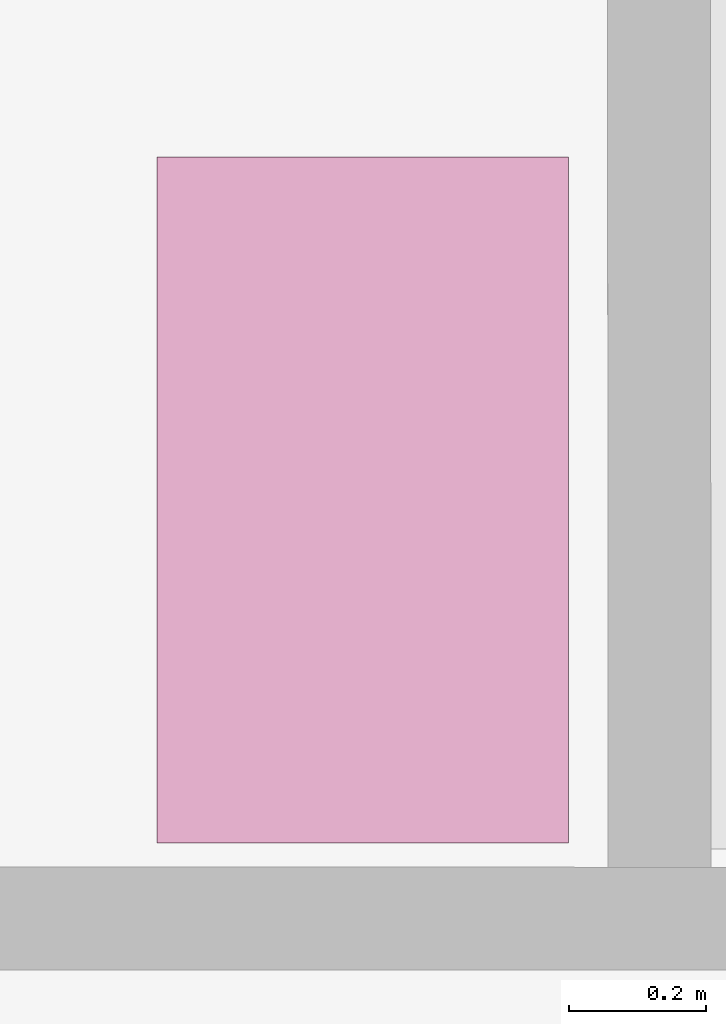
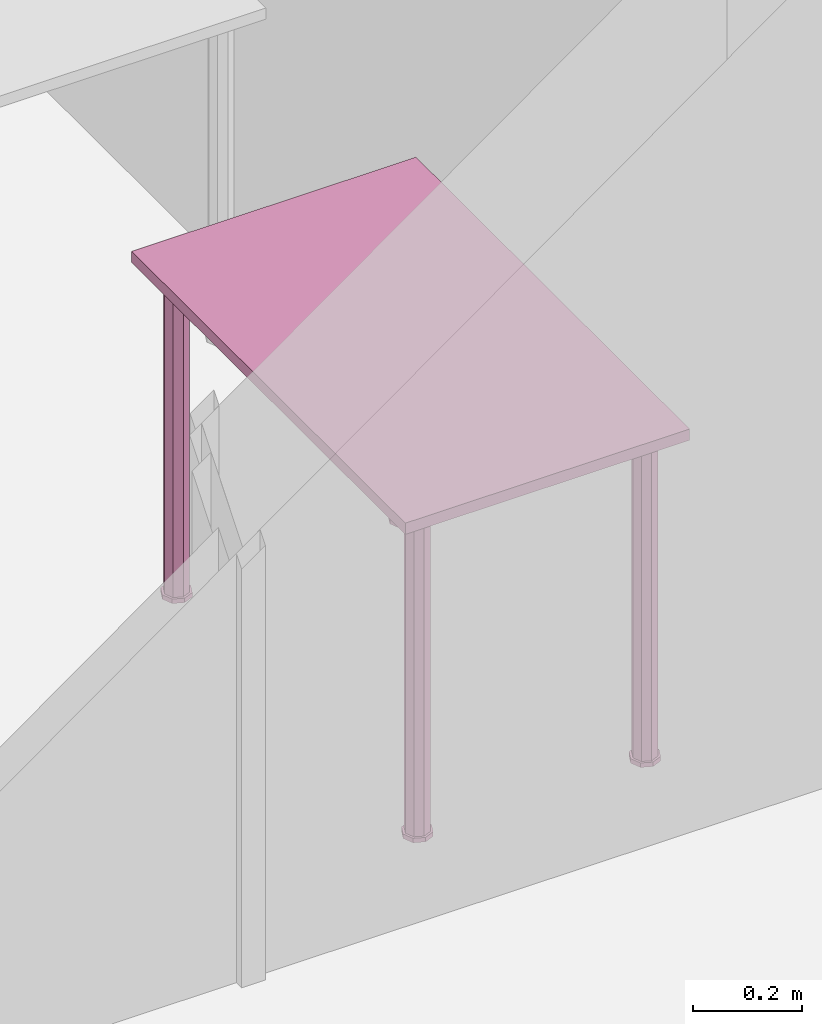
# One storey, part 185 of 194: 1 furnishing.
"""IFC2X3 building model written with IfcOpenShell, lengths in millimetres."""

import ifcopenshell
import ifcopenshell.guid

model = None  # the IFC model being written
_history = None  # IfcOwnerHistory: only IFC2X3 demands one
_inside = {}  # id of a spatial element -> (the spatial element, [elements in it])
_under = {}  # id of a project, library or spatial element -> (it, [spatial elements below it])
_declared = {}  # id of a project -> (the project, [libraries it declares])
_typed = {}  # id of a type object -> (the type object, [elements of that type])
_made_of = {}  # id of a material, layer set ... -> (it, [elements and type objects made of it])


def new_model(schema):
    """Start an empty IFC model of exactly this schema.

    Asked for "IFC4X3", IfcOpenShell would pick the latest addendum, in which some entities
    have other attributes; the version numbers below select the first issue.
    IFC2X3 requires an IfcOwnerHistory on every rooted entity: one is made here for all.
    """
    global model, _history
    if schema == "IFC4X3":
        model = ifcopenshell.file(schema_version=(4, 3, 0, 0))
    else:
        model = ifcopenshell.file(schema=schema)
    _inside.clear()
    _under.clear()
    _declared.clear()
    _typed.clear()
    _made_of.clear()
    _history = None
    if model.schema == "IFC2X3":
        org = make("IfcOrganization", Name="unknown")
        user = make(
            "IfcPersonAndOrganization",
            ThePerson=make("IfcPerson", FamilyName="unknown"),
            TheOrganization=org,
        )
        app = make(
            "IfcApplication",
            ApplicationDeveloper=org,
            Version="unknown",
            ApplicationFullName="unknown",
            ApplicationIdentifier="unknown",
        )
        _history = make(
            "IfcOwnerHistory",
            OwningUser=user,
            OwningApplication=app,
            ChangeAction="ADDED",
            CreationDate=0,
        )
    return model


def make(cls, **values):
    """One entity of the class cls with the attributes given. An attribute that is None is left unset."""
    return model.create_entity(
        cls, **{name: value for name, value in values.items() if value is not None}
    )


def entity(cls, *values):
    """Any entity or typed value of the class cls, its attributes in the order of the schema. None: left unset."""
    e = model.create_entity(cls)
    for i, value in enumerate(values):
        if value is not None:
            e[i] = value
    return e


def rooted(cls, **values):
    """An entity with a GlobalId (a new one), such as an element, a storey or a relation."""
    return make(cls, GlobalId=ifcopenshell.guid.new(), OwnerHistory=_history, **values)


def si_unit(unit_type, name, prefix=None):
    """IfcSIUnit, for example si_unit("LENGTHUNIT", "METRE", prefix="MILLI")."""
    return make("IfcSIUnit", UnitType=unit_type, Prefix=prefix, Name=name)


def converted_unit(unit_type, name, factor, base, dimensions=None, offset=None):
    """IfcConversionBasedUnit, such as the inch: factor (a typed value) times the base unit."""
    return make(
        "IfcConversionBasedUnit"
        if offset is None
        else "IfcConversionBasedUnitWithOffset",
        ConversionOffset=offset,
        Dimensions=None
        if dimensions is None
        else entity("IfcDimensionalExponents", *dimensions),
        UnitType=unit_type,
        Name=name,
        ConversionFactor=make(
            "IfcMeasureWithUnit", ValueComponent=factor, UnitComponent=base
        ),
    )


def derived_unit(unit_type, elements):
    """IfcDerivedUnit: a product of units, each with its exponent."""
    return make(
        "IfcDerivedUnit",
        Elements=[
            make("IfcDerivedUnitElement", Unit=unit, Exponent=power)
            for unit, power in elements
        ],
        UnitType=unit_type,
    )


def money_unit(currency):
    """IfcMonetaryUnit."""
    return make("IfcMonetaryUnit", Currency=currency)


def assignment(units):
    """IfcUnitAssignment: the units of a project."""
    return None if units is None else make("IfcUnitAssignment", Units=units)


def point(xyz):
    """IfcCartesianPoint."""
    return None if xyz is None else make("IfcCartesianPoint", Coordinates=xyz)


def direction(xyz):
    """IfcDirection."""
    return None if xyz is None else make("IfcDirection", DirectionRatios=xyz)


def frame(location, z_axis=None, x_axis=None):
    """IfcAxis2Placement3D, a coordinate frame: its origin and axes. An axis left out is left unset."""
    return make(
        "IfcAxis2Placement3D",
        Location=point(location),
        Axis=direction(z_axis),
        RefDirection=direction(x_axis),
    )


def origin_with_axes():
    """The frame at (0, 0, 0) with the z axis (0, 0, 1) and the x axis (1, 0, 0) written out."""
    return frame((0.0, 0.0, 0.0), z_axis=(0.0, 0.0, 1.0), x_axis=(1.0, 0.0, 0.0))


def place(relative_to, where):
    """IfcLocalPlacement: puts the frame where relative to a parent placement (None: the world)."""
    return make(
        "IfcLocalPlacement", PlacementRelTo=relative_to, RelativePlacement=where
    )


def context(
    kind, dimensions, precision=None, world=None, true_north=None, identifier=None
):
    """IfcGeometricRepresentationContext, for example the 3D "Model" context."""
    return make(
        "IfcGeometricRepresentationContext",
        ContextIdentifier=identifier,
        ContextType=kind,
        CoordinateSpaceDimension=dimensions,
        Precision=precision,
        WorldCoordinateSystem=world,
        TrueNorth=true_north,
    )


def subcontext(parent, identifier, kind, view, scale=None):
    """IfcGeometricRepresentationSubContext, for example "Body" below "Model"."""
    return make(
        "IfcGeometricRepresentationSubContext",
        ContextIdentifier=identifier,
        ContextType=kind,
        ParentContext=parent,
        TargetScale=scale,
        TargetView=view,
    )


def project(units=None, contexts=None):
    """IfcProject with its units and contexts."""
    return rooted(
        "IfcProject",
        Name="project",
        RepresentationContexts=contexts,
        UnitsInContext=assignment(units),
    )


def spatial(cls, under=None, at=None, **own):
    """A site, building, storey or space (cls), placed at a placement, below another one or the project."""
    s = rooted(cls, ObjectPlacement=at, **own)
    if under is not None:
        _under.setdefault(under.id(), (under, []))[1].append(s)
    return s


def faces_of(points, faces, orient=None, outer=None):
    """IfcFace entities. A face is a list of loops; a loop is a list of indices into points, from 0.

    orient and outer hold one flag for each loop. By default every Orientation is true, the
    first loop of a face is its IfcFaceOuterBound and the others are IfcFaceBound.
    """
    made = []
    for i, loops in enumerate(faces):
        bounds = []
        for j, loop in enumerate(loops):
            is_outer = j == 0 if outer is None else outer[i][j]
            bounds.append(
                make(
                    "IfcFaceOuterBound" if is_outer else "IfcFaceBound",
                    Bound=make("IfcPolyLoop", Polygon=[points[k] for k in loop]),
                    Orientation=True if orient is None else orient[i][j],
                )
            )
        made.append(make("IfcFace", Bounds=bounds))
    return made


def faceted_brep(points, faces, orient=None, outer=None, voids=None):
    """IfcFacetedBrep: a solid bounded by flat faces; with voids (closed shells), ...WithVoids."""
    shared = [point(p) for p in points]
    hull = make("IfcClosedShell", CfsFaces=faces_of(shared, faces, orient, outer))
    if voids is None:
        return make("IfcFacetedBrep", Outer=hull)
    return make(
        "IfcFacetedBrepWithVoids",
        Outer=hull,
        Voids=[
            make(cls, CfsFaces=faces_of(shared, fs, o, b)) for cls, fs, o, b in voids
        ],
    )


def shape(context_of_items, identifier, shape_type, items):
    """IfcShapeRepresentation: the items that make up one representation, for example the "Body"."""
    return make(
        "IfcShapeRepresentation",
        ContextOfItems=context_of_items,
        RepresentationIdentifier=identifier,
        RepresentationType=shape_type,
        Items=items,
    )


def made_of(thing, what):
    """Note that an element or type object is made of a material, layer set ...; save() writes the relation."""
    if what is not None:
        _made_of.setdefault(what.id(), (what, []))[1].append(thing)
    return thing


def type_object(cls, material=None, **own):
    """A type object (cls), such as IfcWallType, which elements share."""
    return made_of(rooted(cls, **own), material)


def element(
    cls,
    number,
    at=None,
    inside=None,
    cuts=None,
    type_object=None,
    material=None,
    context=None,
    identifier="Body",
    shape_type=None,
    held_by="IfcProductDefinitionShape",
    body=None,
    shapes=None,
    **own,
):
    """One element of the class cls, such as IfcWall. Its Tag is "e" and its number.

    at: its placement. inside: the storey or other place that contains it. cuts: it is an
    opening in that element (IfcRelVoidsElement). A single representation is given by context,
    identifier, shape_type and body (its items); several are given by shapes. held_by: the class
    of the entity that holds the representations. save() writes the other relations.
    """
    e = rooted(cls, Tag="e%d" % number, ObjectPlacement=at, **own)
    if body is not None:
        shapes = [shape(context, identifier, shape_type, body)]
    if shapes is not None:
        e.Representation = make(held_by, Representations=shapes)
    if inside is not None:
        _inside.setdefault(inside.id(), (inside, []))[1].append(e)
    if cuts is not None:
        rooted(
            "IfcRelVoidsElement", RelatingBuildingElement=cuts, RelatedOpeningElement=e
        )
    if type_object is not None:
        _typed.setdefault(type_object.id(), (type_object, []))[1].append(e)
    return made_of(e, material)


def aggregate(whole, parts):
    """IfcRelAggregates: a whole, such as a stair, and the parts it consists of."""
    return rooted("IfcRelAggregates", RelatingObject=whole, RelatedObjects=parts)


def save(model, path):
    """Write the relations noted so far, then the file.

    IfcRelAggregates (storeys below a building ...), IfcRelContainedInSpatialStructure (elements
    in a storey), IfcRelDefinesByType, IfcRelAssociatesMaterial and IfcRelDeclares: one each for
    every whole, place, type object, material and project.
    """
    for whole, parts in _under.values():
        aggregate(whole, parts)
    for where, things in _inside.values():
        rooted(
            "IfcRelContainedInSpatialStructure",
            RelatedElements=things,
            RelatingStructure=where,
        )
    for kind, things in _typed.values():
        rooted("IfcRelDefinesByType", RelatedObjects=things, RelatingType=kind)
    for what, things in _made_of.values():
        rooted("IfcRelAssociatesMaterial", RelatedObjects=things, RelatingMaterial=what)
    for by, libraries in _declared.values():
        rooted("IfcRelDeclares", RelatingContext=by, RelatedDefinitions=libraries)
    model.write(path)


model = new_model("IFC2X3")

# Units and contexts
model_context = context("Model", 3, precision=1e-05, world=origin_with_axes(), true_north=direction((0.0, 1.0)))
body_context = subcontext(model_context, "Body", "Model", "MODEL_VIEW")
ifc_project = project(units=[si_unit("LENGTHUNIT", "METRE", prefix="MILLI"), si_unit("AREAUNIT", "SQUARE_METRE"), si_unit("VOLUMEUNIT", "CUBIC_METRE"), converted_unit("PLANEANGLEUNIT", "DEGREE", entity("IfcPlaneAngleMeasure", 0.0174532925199), si_unit("PLANEANGLEUNIT", "RADIAN"), dimensions=[0, 0, 0, 0, 0, 0, 0]), si_unit("SOLIDANGLEUNIT", "STERADIAN"), money_unit("EUR"), converted_unit("TIMEUNIT", "Year", entity("IfcTimeMeasure", 31556926.0), si_unit("TIMEUNIT", "SECOND"), dimensions=[0, 0, 1, 0, 0, 0, 0]), si_unit("MASSUNIT", "GRAM", prefix="KILO"), si_unit("THERMODYNAMICTEMPERATUREUNIT", "DEGREE_CELSIUS"), si_unit("LUMINOUSINTENSITYUNIT", "LUMEN"), si_unit("ENERGYUNIT", "JOULE", prefix="MEGA"), derived_unit("THERMALCONDUCTANCEUNIT", [(si_unit("POWERUNIT", "WATT"), 1), (si_unit("LENGTHUNIT", "METRE"), -1), (si_unit("THERMODYNAMICTEMPERATUREUNIT", "KELVIN"), -1)]), derived_unit("SPECIFICHEATCAPACITYUNIT", [(si_unit("ENERGYUNIT", "JOULE"), 1), (si_unit("MASSUNIT", "GRAM", prefix="KILO"), -1), (si_unit("THERMODYNAMICTEMPERATUREUNIT", "KELVIN"), -1)]), derived_unit("MASSDENSITYUNIT", [(si_unit("MASSUNIT", "GRAM", prefix="KILO"), 1), (si_unit("VOLUMEUNIT", "CUBIC_METRE"), -1)])], contexts=[model_context])

# Site, building, storey
site_placement = place(None, origin_with_axes())
site = spatial("IfcSite", under=ifc_project, at=site_placement, Name="Site", CompositionType="ELEMENT")
building_placement = place(site_placement, origin_with_axes())
building = spatial("IfcBuilding", under=site, at=building_placement, Name="Building", CompositionType="ELEMENT")
storey_placement = place(building_placement, frame((0.0, 0.0, 3000.0), z_axis=(0.0, 0.0, 1.0), x_axis=(1.0, 0.0, 0.0)))
storey = spatial("IfcBuildingStorey", under=building, at=storey_placement, Name="2 KORRUS", CompositionType="ELEMENT", Elevation=3000.0)

# Furnishing
furnishing_element_type = type_object("IfcFurnishingElementType", Name="Model Element 114")
furnishing_placement = place(storey_placement, frame((30354.9915033, 68499.4429478, 0.0), z_axis=(0.0, 0.0, 1.0), x_axis=(0.0, -1.0, 0.0)))
element("IfcFurnishingElement", 1, at=furnishing_placement, inside=storey, type_object=furnishing_element_type, Name="FU - 007", context=body_context, shape_type="Brep", body=[
    faceted_brep([(0.0, 0.0, 725.0), (1000.0, 0.0, 725.0), (1000.0, 0.0, 750.0), (0.0, 0.0, 750.0), (0.0, 600.0, 725.0), (1000.0, 600.0, 725.0), (1000.0, 600.0, 750.0), (0.0, 600.0, 750.0)], [[[0, 1, 2, 3]], [[0, 4, 5, 1]], [[1, 5, 6, 2]], [[3, 2, 6, 7]], [[4, 0, 3, 7]], [[5, 4, 7, 6]]]),
    faceted_brep([(77.6776695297, 77.6776695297, 10.0), (85.0, 60.0, 10.0), (77.6776695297, 42.3223304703, 10.0), (60.0, 35.0, 10.0), (42.3223304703, 42.3223304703, 10.0), (35.0, 60.0, 10.0), (42.3223304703, 77.6776695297, 10.0), (60.0, 85.0, 10.0), (77.6776695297, 77.6776695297, 725.0), (85.0, 60.0, 725.0), (77.6776695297, 42.3223304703, 725.0), (60.0, 35.0, 725.0), (42.3223304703, 42.3223304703, 725.0), (35.0, 60.0, 725.0), (42.3223304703, 77.6776695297, 725.0), (60.0, 85.0, 725.0)], [[[0, 1, 2, 3, 4, 5, 6, 7]], [[1, 0, 8, 9]], [[2, 1, 9, 10]], [[3, 2, 10, 11]], [[4, 3, 11, 12]], [[5, 4, 12, 13]], [[6, 5, 13, 14]], [[7, 6, 14, 15]], [[0, 7, 15, 8]], [[8, 15, 14, 13, 12, 11, 10, 9]]]),
    faceted_brep([(81.2132034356, 81.2132034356, 0.0), (90.0, 60.0, 0.0), (81.2132034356, 38.7867965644, 0.0), (60.0, 30.0, 0.0), (38.7867965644, 38.7867965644, 0.0), (30.0, 60.0, 0.0), (38.7867965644, 81.2132034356, 0.0), (60.0, 90.0, 0.0), (81.2132034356, 81.2132034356, 10.0), (90.0, 60.0, 10.0), (81.2132034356, 38.7867965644, 10.0), (60.0, 30.0, 10.0), (38.7867965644, 38.7867965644, 10.0), (30.0, 60.0, 10.0), (38.7867965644, 81.2132034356, 10.0), (60.0, 90.0, 10.0)], [[[0, 1, 2, 3, 4, 5, 6, 7]], [[1, 0, 8, 9]], [[2, 1, 9, 10]], [[3, 2, 10, 11]], [[4, 3, 11, 12]], [[5, 4, 12, 13]], [[6, 5, 13, 14]], [[7, 6, 14, 15]], [[0, 7, 15, 8]], [[8, 15, 14, 13, 12, 11, 10, 9]]]),
    faceted_brep([(77.6776695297, 557.67766953, 10.0), (85.0, 540.0, 10.0), (77.6776695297, 522.32233047, 10.0), (60.0, 515.0, 10.0), (42.3223304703, 522.32233047, 10.0), (35.0, 540.0, 10.0), (42.3223304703, 557.67766953, 10.0), (60.0, 565.0, 10.0), (77.6776695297, 557.67766953, 725.0), (85.0, 540.0, 725.0), (77.6776695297, 522.32233047, 725.0), (60.0, 515.0, 725.0), (42.3223304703, 522.32233047, 725.0), (35.0, 540.0, 725.0), (42.3223304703, 557.67766953, 725.0), (60.0, 565.0, 725.0)], [[[0, 1, 2, 3, 4, 5, 6, 7]], [[1, 0, 8, 9]], [[2, 1, 9, 10]], [[3, 2, 10, 11]], [[4, 3, 11, 12]], [[5, 4, 12, 13]], [[6, 5, 13, 14]], [[7, 6, 14, 15]], [[0, 7, 15, 8]], [[8, 15, 14, 13, 12, 11, 10, 9]]]),
    faceted_brep([(81.2132034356, 561.213203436, 0.0), (90.0, 540.0, 0.0), (81.2132034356, 518.786796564, 0.0), (60.0, 510.0, 0.0), (38.7867965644, 518.786796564, 0.0), (30.0, 540.0, 0.0), (38.7867965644, 561.213203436, 0.0), (60.0, 570.0, 0.0), (81.2132034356, 561.213203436, 10.0), (90.0, 540.0, 10.0), (81.2132034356, 518.786796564, 10.0), (60.0, 510.0, 10.0), (38.7867965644, 518.786796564, 10.0), (30.0, 540.0, 10.0), (38.7867965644, 561.213203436, 10.0), (60.0, 570.0, 10.0)], [[[0, 1, 2, 3, 4, 5, 6, 7]], [[1, 0, 8, 9]], [[2, 1, 9, 10]], [[3, 2, 10, 11]], [[4, 3, 11, 12]], [[5, 4, 12, 13]], [[6, 5, 13, 14]], [[7, 6, 14, 15]], [[0, 7, 15, 8]], [[8, 15, 14, 13, 12, 11, 10, 9]]]),
    faceted_brep([(957.67766953, 77.6776695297, 10.0), (965.0, 60.0, 10.0), (957.67766953, 42.3223304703, 10.0), (940.0, 35.0, 10.0), (922.32233047, 42.3223304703, 10.0), (915.0, 60.0, 10.0), (922.32233047, 77.6776695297, 10.0), (940.0, 85.0, 10.0), (957.67766953, 77.6776695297, 725.0), (965.0, 60.0, 725.0), (957.67766953, 42.3223304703, 725.0), (940.0, 35.0, 725.0), (922.32233047, 42.3223304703, 725.0), (915.0, 60.0, 725.0), (922.32233047, 77.6776695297, 725.0), (940.0, 85.0, 725.0)], [[[0, 1, 2, 3, 4, 5, 6, 7]], [[1, 0, 8, 9]], [[2, 1, 9, 10]], [[3, 2, 10, 11]], [[4, 3, 11, 12]], [[5, 4, 12, 13]], [[6, 5, 13, 14]], [[7, 6, 14, 15]], [[0, 7, 15, 8]], [[8, 15, 14, 13, 12, 11, 10, 9]]]),
    faceted_brep([(961.213203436, 81.2132034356, 0.0), (970.0, 60.0, 0.0), (961.213203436, 38.7867965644, 0.0), (940.0, 30.0, 0.0), (918.786796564, 38.7867965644, 0.0), (910.0, 60.0, 0.0), (918.786796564, 81.2132034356, 0.0), (940.0, 90.0, 0.0), (961.213203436, 81.2132034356, 10.0), (970.0, 60.0, 10.0), (961.213203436, 38.7867965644, 10.0), (940.0, 30.0, 10.0), (918.786796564, 38.7867965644, 10.0), (910.0, 60.0, 10.0), (918.786796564, 81.2132034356, 10.0), (940.0, 90.0, 10.0)], [[[0, 1, 2, 3, 4, 5, 6, 7]], [[1, 0, 8, 9]], [[2, 1, 9, 10]], [[3, 2, 10, 11]], [[4, 3, 11, 12]], [[5, 4, 12, 13]], [[6, 5, 13, 14]], [[7, 6, 14, 15]], [[0, 7, 15, 8]], [[8, 15, 14, 13, 12, 11, 10, 9]]]),
    faceted_brep([(957.67766953, 557.67766953, 10.0), (965.0, 540.0, 10.0), (957.67766953, 522.32233047, 10.0), (940.0, 515.0, 10.0), (922.32233047, 522.32233047, 10.0), (915.0, 540.0, 10.0), (922.32233047, 557.67766953, 10.0), (940.0, 565.0, 10.0), (957.67766953, 557.67766953, 725.0), (965.0, 540.0, 725.0), (957.67766953, 522.32233047, 725.0), (940.0, 515.0, 725.0), (922.32233047, 522.32233047, 725.0), (915.0, 540.0, 725.0), (922.32233047, 557.67766953, 725.0), (940.0, 565.0, 725.0)], [[[0, 1, 2, 3, 4, 5, 6, 7]], [[1, 0, 8, 9]], [[2, 1, 9, 10]], [[3, 2, 10, 11]], [[4, 3, 11, 12]], [[5, 4, 12, 13]], [[6, 5, 13, 14]], [[7, 6, 14, 15]], [[0, 7, 15, 8]], [[8, 15, 14, 13, 12, 11, 10, 9]]]),
    faceted_brep([(961.213203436, 561.213203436, 0.0), (970.0, 540.0, 0.0), (961.213203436, 518.786796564, 0.0), (940.0, 510.0, 0.0), (918.786796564, 518.786796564, 0.0), (910.0, 540.0, 0.0), (918.786796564, 561.213203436, 0.0), (940.0, 570.0, 0.0), (961.213203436, 561.213203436, 10.0), (970.0, 540.0, 10.0), (961.213203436, 518.786796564, 10.0), (940.0, 510.0, 10.0), (918.786796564, 518.786796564, 10.0), (910.0, 540.0, 10.0), (918.786796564, 561.213203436, 10.0), (940.0, 570.0, 10.0)], [[[0, 1, 2, 3, 4, 5, 6, 7]], [[1, 0, 8, 9]], [[2, 1, 9, 10]], [[3, 2, 10, 11]], [[4, 3, 11, 12]], [[5, 4, 12, 13]], [[6, 5, 13, 14]], [[7, 6, 14, 15]], [[0, 7, 15, 8]], [[8, 15, 14, 13, 12, 11, 10, 9]]]),
])

save(model, "model.ifc")
